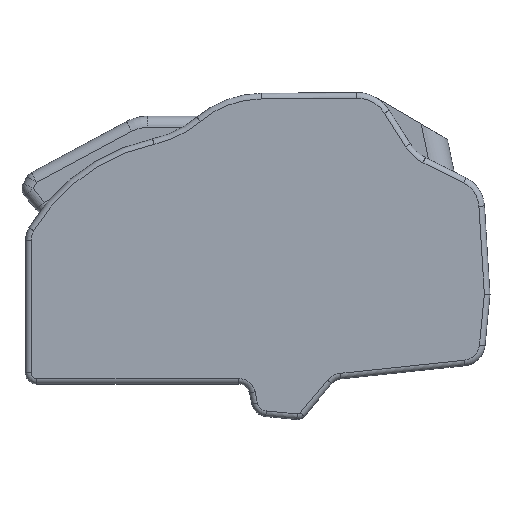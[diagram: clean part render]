
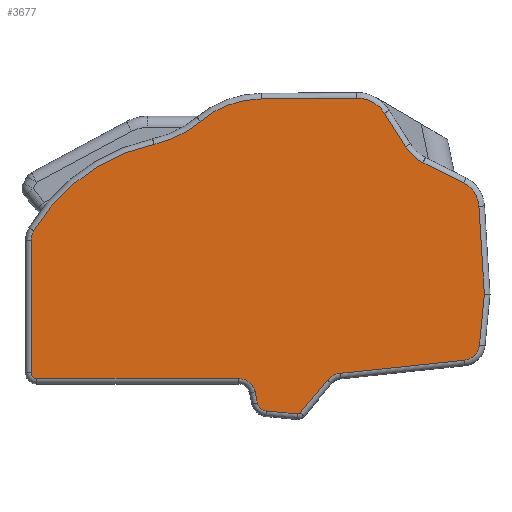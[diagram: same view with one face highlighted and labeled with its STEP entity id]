
A CAD part, front view. The second image highlights one B-rep face of the part: STEP entity #3677.
In plain terms, the highlighted planar face has unit normal (0, -1, 0).
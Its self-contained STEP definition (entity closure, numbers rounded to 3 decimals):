
#172=CIRCLE('',#3967,0.15);
#173=CIRCLE('',#3968,0.85);
#174=CIRCLE('',#3969,0.75);
#175=CIRCLE('',#3970,1.25);
#176=CIRCLE('',#3971,1.95);
#177=CIRCLE('',#3972,1.45);
#178=CIRCLE('',#3973,4.25);
#179=CIRCLE('',#3974,4.75);
#180=CIRCLE('',#3975,8.25);
#181=CIRCLE('',#3976,0.85);
#182=CIRCLE('',#3977,0.25);
#183=CIRCLE('',#3978,0.75);
#184=CIRCLE('',#3979,0.45);
#521=ORIENTED_EDGE('',*,*,#1635,.T.);
#522=ORIENTED_EDGE('',*,*,#1636,.T.);
#523=ORIENTED_EDGE('',*,*,#1637,.T.);
#524=ORIENTED_EDGE('',*,*,#1638,.T.);
#525=ORIENTED_EDGE('',*,*,#1639,.T.);
#526=ORIENTED_EDGE('',*,*,#1640,.T.);
#527=ORIENTED_EDGE('',*,*,#1641,.T.);
#528=ORIENTED_EDGE('',*,*,#1642,.T.);
#529=ORIENTED_EDGE('',*,*,#1643,.T.);
#530=ORIENTED_EDGE('',*,*,#1644,.T.);
#531=ORIENTED_EDGE('',*,*,#1645,.T.);
#532=ORIENTED_EDGE('',*,*,#1646,.T.);
#533=ORIENTED_EDGE('',*,*,#1647,.T.);
#534=ORIENTED_EDGE('',*,*,#1648,.T.);
#535=ORIENTED_EDGE('',*,*,#1649,.T.);
#536=ORIENTED_EDGE('',*,*,#1650,.T.);
#537=ORIENTED_EDGE('',*,*,#1651,.T.);
#538=ORIENTED_EDGE('',*,*,#1652,.T.);
#539=ORIENTED_EDGE('',*,*,#1653,.T.);
#540=ORIENTED_EDGE('',*,*,#1654,.T.);
#541=ORIENTED_EDGE('',*,*,#1655,.T.);
#542=ORIENTED_EDGE('',*,*,#1656,.T.);
#543=ORIENTED_EDGE('',*,*,#1657,.T.);
#544=ORIENTED_EDGE('',*,*,#1658,.T.);
#1635=EDGE_CURVE('',#2185,#2186,#2501,.T.);
#1636=EDGE_CURVE('',#2186,#2187,#172,.T.);
#1637=EDGE_CURVE('',#2187,#2188,#2502,.T.);
#1638=EDGE_CURVE('',#2188,#2189,#173,.F.);
#1639=EDGE_CURVE('',#2189,#2190,#2503,.T.);
#1640=EDGE_CURVE('',#2190,#2191,#174,.T.);
#1641=EDGE_CURVE('',#2191,#2192,#2504,.T.);
#1642=EDGE_CURVE('',#2192,#2193,#2505,.T.);
#1643=EDGE_CURVE('',#2193,#2194,#175,.T.);
#1644=EDGE_CURVE('',#2194,#2195,#2506,.T.);
#1645=EDGE_CURVE('',#2195,#2196,#176,.F.);
#1646=EDGE_CURVE('',#2196,#2197,#2507,.T.);
#1647=EDGE_CURVE('',#2197,#2198,#177,.T.);
#1648=EDGE_CURVE('',#2198,#2199,#2508,.T.);
#1649=EDGE_CURVE('',#2199,#2200,#178,.T.);
#1650=EDGE_CURVE('',#2200,#2201,#179,.F.);
#1651=EDGE_CURVE('',#2201,#2202,#180,.T.);
#1652=EDGE_CURVE('',#2202,#2203,#181,.T.);
#1653=EDGE_CURVE('',#2203,#2204,#2509,.T.);
#1654=EDGE_CURVE('',#2204,#2205,#182,.T.);
#1655=EDGE_CURVE('',#2205,#2206,#2510,.T.);
#1656=EDGE_CURVE('',#2206,#2207,#183,.F.);
#1657=EDGE_CURVE('',#2207,#2208,#2511,.T.);
#1658=EDGE_CURVE('',#2208,#2185,#184,.T.);
#2185=VERTEX_POINT('',#5802);
#2186=VERTEX_POINT('',#5803);
#2187=VERTEX_POINT('',#5805);
#2188=VERTEX_POINT('',#5807);
#2189=VERTEX_POINT('',#5809);
#2190=VERTEX_POINT('',#5811);
#2191=VERTEX_POINT('',#5813);
#2192=VERTEX_POINT('',#5815);
#2193=VERTEX_POINT('',#5817);
#2194=VERTEX_POINT('',#5819);
#2195=VERTEX_POINT('',#5821);
#2196=VERTEX_POINT('',#5823);
#2197=VERTEX_POINT('',#5825);
#2198=VERTEX_POINT('',#5827);
#2199=VERTEX_POINT('',#5829);
#2200=VERTEX_POINT('',#5831);
#2201=VERTEX_POINT('',#5833);
#2202=VERTEX_POINT('',#5835);
#2203=VERTEX_POINT('',#5837);
#2204=VERTEX_POINT('',#5839);
#2205=VERTEX_POINT('',#5841);
#2206=VERTEX_POINT('',#5843);
#2207=VERTEX_POINT('',#5845);
#2208=VERTEX_POINT('',#5847);
#2501=LINE('',#5801,#2841);
#2502=LINE('',#5806,#2842);
#2503=LINE('',#5810,#2843);
#2504=LINE('',#5814,#2844);
#2505=LINE('',#5816,#2845);
#2506=LINE('',#5820,#2846);
#2507=LINE('',#5824,#2847);
#2508=LINE('',#5828,#2848);
#2509=LINE('',#5838,#2849);
#2510=LINE('',#5842,#2850);
#2511=LINE('',#5846,#2851);
#2841=VECTOR('',#4552,1000.);
#2842=VECTOR('',#4555,1000.);
#2843=VECTOR('',#4558,1000.);
#2844=VECTOR('',#4561,1000.);
#2845=VECTOR('',#4562,1000.);
#2846=VECTOR('',#4565,1000.);
#2847=VECTOR('',#4568,1000.);
#2848=VECTOR('',#4571,1000.);
#2849=VECTOR('',#4580,1000.);
#2850=VECTOR('',#4583,1000.);
#2851=VECTOR('',#4586,1000.);
#3124=EDGE_LOOP('',(#521,#522,#523,#524,#525,#526,#527,#528,#529,#530,#531,
#532,#533,#534,#535,#536,#537,#538,#539,#540,#541,#542,#543,#544));
#3352=FACE_BOUND('',#3124,.T.);
#3571=PLANE('',#3966);
#3677=ADVANCED_FACE('',(#3352),#3571,.T.);
#3966=AXIS2_PLACEMENT_3D('',#5800,#4550,#4551);
#3967=AXIS2_PLACEMENT_3D('',#5804,#4553,#4554);
#3968=AXIS2_PLACEMENT_3D('',#5808,#4556,#4557);
#3969=AXIS2_PLACEMENT_3D('',#5812,#4559,#4560);
#3970=AXIS2_PLACEMENT_3D('',#5818,#4563,#4564);
#3971=AXIS2_PLACEMENT_3D('',#5822,#4566,#4567);
#3972=AXIS2_PLACEMENT_3D('',#5826,#4569,#4570);
#3973=AXIS2_PLACEMENT_3D('',#5830,#4572,#4573);
#3974=AXIS2_PLACEMENT_3D('',#5832,#4574,#4575);
#3975=AXIS2_PLACEMENT_3D('',#5834,#4576,#4577);
#3976=AXIS2_PLACEMENT_3D('',#5836,#4578,#4579);
#3977=AXIS2_PLACEMENT_3D('',#5840,#4581,#4582);
#3978=AXIS2_PLACEMENT_3D('',#5844,#4584,#4585);
#3979=AXIS2_PLACEMENT_3D('',#5848,#4587,#4588);
#4550=DIRECTION('',(0.,-1.,0.));
#4551=DIRECTION('',(0.,0.,-1.));
#4552=DIRECTION('',(0.995,0.,-0.095));
#4553=DIRECTION('',(0.,-1.,0.));
#4554=DIRECTION('',(0.,0.,-1.));
#4555=DIRECTION('',(0.64,0.,0.768));
#4556=DIRECTION('',(0.,-1.,0.));
#4557=DIRECTION('',(0.,0.,-1.));
#4558=DIRECTION('',(0.994,0.,0.105));
#4559=DIRECTION('',(0.,-1.,0.));
#4560=DIRECTION('',(0.,0.,-1.));
#4561=DIRECTION('',(0.096,0.,0.995));
#4562=DIRECTION('',(-0.062,0.,0.998));
#4563=DIRECTION('',(0.,-1.,0.));
#4564=DIRECTION('',(0.,0.,-1.));
#4565=DIRECTION('',(-0.894,0.,0.447));
#4566=DIRECTION('',(0.,-1.,0.));
#4567=DIRECTION('',(0.,0.,-1.));
#4568=DIRECTION('',(-0.533,0.,0.846));
#4569=DIRECTION('',(0.,-1.,0.));
#4570=DIRECTION('',(0.,0.,-1.));
#4571=DIRECTION('',(-1.,0.,-0.009));
#4572=DIRECTION('',(0.,-1.,0.));
#4573=DIRECTION('',(0.,0.,-1.));
#4574=DIRECTION('',(0.,-1.,0.));
#4575=DIRECTION('',(0.,0.,-1.));
#4576=DIRECTION('',(0.,-1.,0.));
#4577=DIRECTION('',(0.,0.,-1.));
#4578=DIRECTION('',(0.,-1.,0.));
#4579=DIRECTION('',(0.,0.,-1.));
#4580=DIRECTION('',(0.,0.,-1.));
#4581=DIRECTION('',(0.,-1.,0.));
#4582=DIRECTION('',(0.,0.,-1.));
#4583=DIRECTION('',(1.,0.,0.));
#4584=DIRECTION('',(0.,-1.,0.));
#4585=DIRECTION('',(0.,0.,-1.));
#4586=DIRECTION('',(0.21,0.,-0.978));
#4587=DIRECTION('',(0.,-1.,0.));
#4588=DIRECTION('',(0.,0.,-1.));
#5800=CARTESIAN_POINT('',(-3.697,-6.,6.395));
#5801=CARTESIAN_POINT('',(7.317,-6.,-1.331));
#5802=CARTESIAN_POINT('',(5.937,-6.,-1.2));
#5803=CARTESIAN_POINT('',(7.317,-6.,-1.331));
#5804=CARTESIAN_POINT('',(7.331,-6.,-1.182));
#5805=CARTESIAN_POINT('',(7.446,-6.,-1.278));
#5806=CARTESIAN_POINT('',(8.655,-6.,0.173));
#5807=CARTESIAN_POINT('',(8.655,-6.,0.173));
#5808=CARTESIAN_POINT('',(9.308,-6.,-0.371));
#5809=CARTESIAN_POINT('',(9.219,-6.,0.474));
#5810=CARTESIAN_POINT('',(14.765,-6.,1.063));
#5811=CARTESIAN_POINT('',(14.765,-6.,1.063));
#5812=CARTESIAN_POINT('',(14.686,-6.,1.808));
#5813=CARTESIAN_POINT('',(15.433,-6.,1.736));
#5814=CARTESIAN_POINT('',(15.654,-6.,4.024));
#5815=CARTESIAN_POINT('',(15.652,-6.,4.004));
#5816=CARTESIAN_POINT('',(15.407,-6.,7.923));
#5817=CARTESIAN_POINT('',(15.407,-6.,7.923));
#5818=CARTESIAN_POINT('',(14.16,-6.,7.845));
#5819=CARTESIAN_POINT('',(14.719,-6.,8.963));
#5820=CARTESIAN_POINT('',(12.916,-6.,9.864));
#5821=CARTESIAN_POINT('',(12.916,-6.,9.864));
#5822=CARTESIAN_POINT('',(13.788,-6.,11.608));
#5823=CARTESIAN_POINT('',(12.138,-6.,10.569));
#5824=CARTESIAN_POINT('',(11.197,-6.,12.064));
#5825=CARTESIAN_POINT('',(11.197,-6.,12.064));
#5826=CARTESIAN_POINT('',(9.97,-6.,11.292));
#5827=CARTESIAN_POINT('',(9.957,-6.,12.741));
#5828=CARTESIAN_POINT('',(5.705,-6.,12.703));
#5829=CARTESIAN_POINT('',(5.705,-6.,12.703));
#5830=CARTESIAN_POINT('',(5.743,-6.,8.454));
#5831=CARTESIAN_POINT('',(2.997,-6.,11.697));
#5832=CARTESIAN_POINT('',(-0.073,-6.,15.322));
#5833=CARTESIAN_POINT('',(0.927,-6.,10.678));
#5834=CARTESIAN_POINT('',(2.663,-6.,2.613));
#5835=CARTESIAN_POINT('',(-4.428,-6.,6.829));
#5836=CARTESIAN_POINT('',(-3.697,-6.,6.395));
#5837=CARTESIAN_POINT('',(-4.547,-6.,6.395));
#5838=CARTESIAN_POINT('',(-4.547,-6.,0.5));
#5839=CARTESIAN_POINT('',(-4.547,-6.,0.5));
#5840=CARTESIAN_POINT('',(-4.297,-6.,0.5));
#5841=CARTESIAN_POINT('',(-4.297,-6.,0.25));
#5842=CARTESIAN_POINT('',(4.699,-6.,0.25));
#5843=CARTESIAN_POINT('',(4.699,-6.,0.25));
#5844=CARTESIAN_POINT('',(4.699,-6.,-0.5));
#5845=CARTESIAN_POINT('',(5.432,-6.,-0.343));
#5846=CARTESIAN_POINT('',(5.54,-6.,-0.846));
#5847=CARTESIAN_POINT('',(5.54,-6.,-0.846));
#5848=CARTESIAN_POINT('',(5.98,-6.,-0.752));
